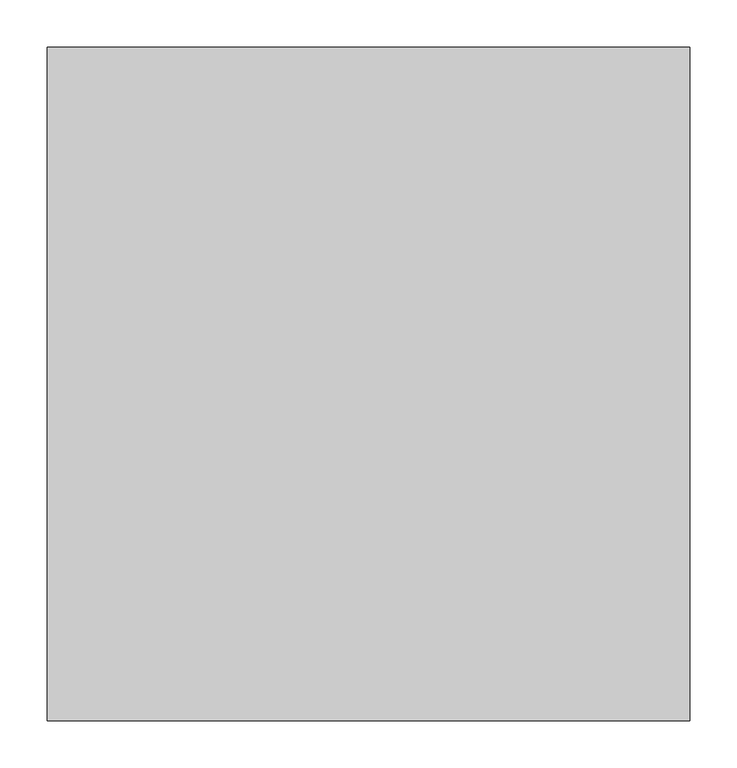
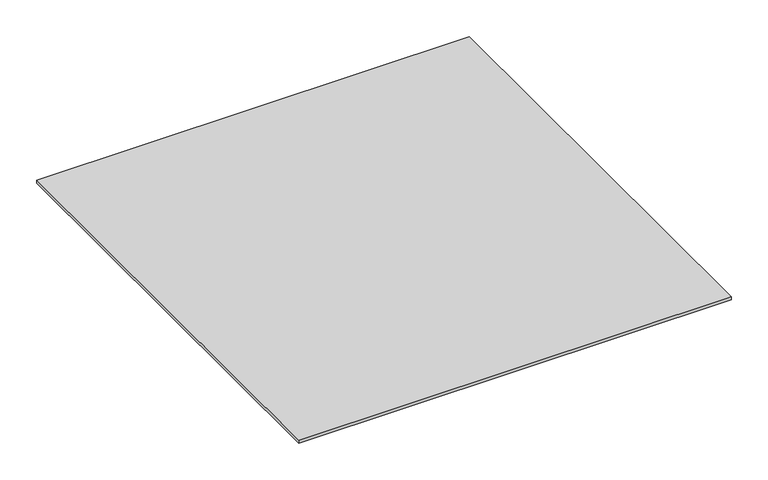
"""IFC4 building model written with IfcOpenShell, lengths in millimetres: valve geometry, Superpipe Manifold Cabinet door : Superpipe Manifold Cabinet door-6&7&8Way."""

from ifc_helpers import new_model, si_unit, origin, origin_with_axes, place, context, project, spatial, polyline, outline, extrude, source, transform, mapped, element, save


def valve_a9c0bb32(model_context):
    return source(origin(), model_context, "Body", "SweptSolid", [
        extrude(outline(polyline([(340.0, 356.5), (340.0, -356.5), (-340.0, -356.5), (-340.0, 356.5), (340.0, 356.5)])), origin_with_axes(), (0.0, 0.0, 1.0), 5.0),
    ])


if __name__ == "__main__":
    model = new_model("IFC4")
    model_context = context("Model", 3, world=origin())
    ifc_project = project(units=[si_unit("LENGTHUNIT", "METRE", prefix="MILLI")], contexts=[model_context])
    site = spatial("IfcSite", under=ifc_project)
    building = spatial("IfcBuilding", under=site)
    placement = place(None, origin())
    valve_shape = valve_a9c0bb32(model_context)
    element("IfcValve", 1, ObjectType="Superpipe Manifold Cabinet door : Superpipe Manifold Cabinet door-6&7&8Way", at=placement, inside=building, context=model_context, shape_type="MappedRepresentation", body=[
        mapped(valve_shape, transform((0.0, 0.0, 0.0), x_axis=(1.0, 0.0, 0.0), y_axis=(0.0, 1.0, 0.0), z_axis=(0.0, 0.0, 1.0))),
    ])
    save(model, "model.ifc")
